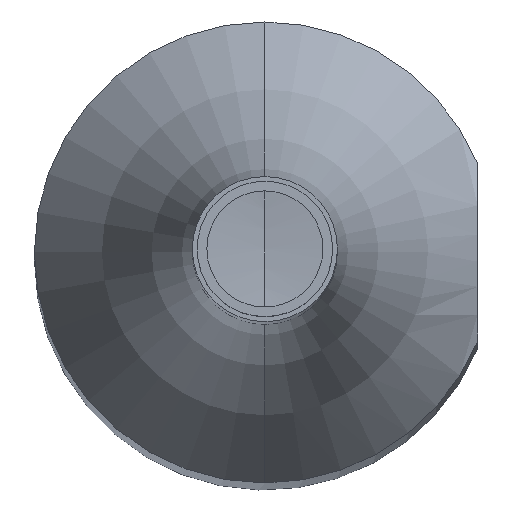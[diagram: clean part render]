
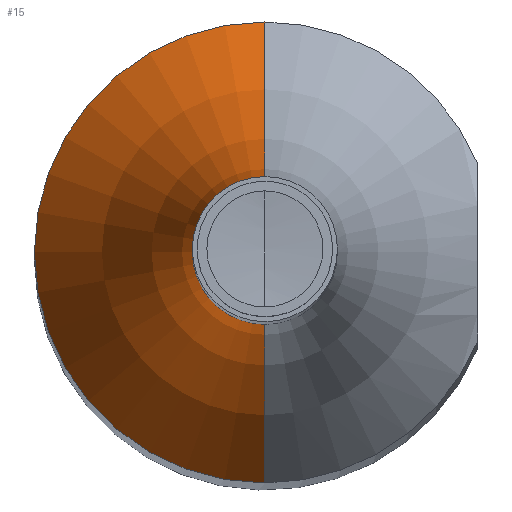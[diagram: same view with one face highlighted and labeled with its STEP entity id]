
A CAD part, top view. The second image highlights one B-rep face of the part: STEP entity #15.
In plain terms, the highlighted toroidal (fillet/blend) face has major radius 15.795 mm and minor radius 14.295 mm.
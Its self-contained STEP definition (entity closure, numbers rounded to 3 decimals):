
#15 = ADVANCED_FACE ( 'NONE', ( #358 ), #239, .F. ) ;
#20 = DIRECTION ( 'NONE',  ( -1., 0., 0. ) ) ;
#23 = CARTESIAN_POINT ( 'NONE',  ( 0., 4.765, -42.333 ) ) ;
#28 = ORIENTED_EDGE ( 'NONE', *, *, #303, .T. ) ;
#33 = ORIENTED_EDGE ( 'NONE', *, *, #198, .T. ) ;
#52 = DIRECTION ( 'NONE',  ( 0., -1., 0. ) ) ;
#79 = VERTEX_POINT ( 'NONE', #489 ) ;
#81 = AXIS2_PLACEMENT_3D ( 'NONE', #361, #449, #125 ) ;
#82 = DIRECTION ( 'NONE',  ( 0., 1., 0. ) ) ;
#85 = CARTESIAN_POINT ( 'NONE',  ( 0., 1.5, -33.24 ) ) ;
#95 = CARTESIAN_POINT ( 'NONE',  ( 0., -15.795, -33.24 ) ) ;
#108 = EDGE_LOOP ( 'NONE', ( #318, #277, #33, #28, #355 ) ) ;
#112 = VERTEX_POINT ( 'NONE', #402 ) ;
#125 = DIRECTION ( 'NONE',  ( 0., 1., 0. ) ) ;
#126 = EDGE_CURVE ( 'NONE', #112, #197, #373, .T. ) ;
#143 = DIRECTION ( 'NONE',  ( 0., 0., 1. ) ) ;
#159 = VERTEX_POINT ( 'NONE', #485 ) ;
#161 = CARTESIAN_POINT ( 'NONE',  ( 0., 0., -33.24 ) ) ;
#197 = VERTEX_POINT ( 'NONE', #23 ) ;
#198 = EDGE_CURVE ( 'NONE', #79, #159, #425, .T. ) ;
#239 = TOROIDAL_SURFACE ( 'NONE', #393, 15.795, 14.295 ) ;
#260 = DIRECTION ( 'NONE',  ( 0., 1., 0. ) ) ;
#277 = ORIENTED_EDGE ( 'NONE', *, *, #285, .T. ) ;
#285 = EDGE_CURVE ( 'NONE', #112, #79, #468, .T. ) ;
#299 = CARTESIAN_POINT ( 'NONE',  ( 0., 0., -33.24 ) ) ;
#303 = EDGE_CURVE ( 'NONE', #159, #481, #497, .T. ) ;
#309 = AXIS2_PLACEMENT_3D ( 'NONE', #456, #20, #143 ) ;
#314 = EDGE_CURVE ( 'NONE', #197, #481, #326, .T. ) ;
#318 = ORIENTED_EDGE ( 'NONE', *, *, #126, .F. ) ;
#326 = CIRCLE ( 'NONE', #309, 14.295 ) ;
#355 = ORIENTED_EDGE ( 'NONE', *, *, #314, .F. ) ;
#358 = FACE_OUTER_BOUND ( 'NONE', #108, .T. ) ;
#361 = CARTESIAN_POINT ( 'NONE',  ( 0., 0., -42.333 ) ) ;
#371 = DIRECTION ( 'NONE',  ( 0., -1., 0. ) ) ;
#373 = CIRCLE ( 'NONE', #81, 4.765 ) ;
#386 = DIRECTION ( 'NONE',  ( 0., 0., -1. ) ) ;
#393 = AXIS2_PLACEMENT_3D ( 'NONE', #161, #386, #82 ) ;
#402 = CARTESIAN_POINT ( 'NONE',  ( 0., -4.765, -42.333 ) ) ;
#416 = DIRECTION ( 'NONE',  ( 1., 0., 0. ) ) ;
#417 = AXIS2_PLACEMENT_3D ( 'NONE', #95, #416, #260 ) ;
#418 = DIRECTION ( 'NONE',  ( 0., 0., -1. ) ) ;
#423 = DIRECTION ( 'NONE',  ( 0., 0., -1. ) ) ;
#425 = CIRCLE ( 'NONE', #470, 1.5 ) ;
#449 = DIRECTION ( 'NONE',  ( 0., 0., -1. ) ) ;
#456 = CARTESIAN_POINT ( 'NONE',  ( 0., 15.795, -33.24 ) ) ;
#468 = CIRCLE ( 'NONE', #417, 14.295 ) ;
#470 = AXIS2_PLACEMENT_3D ( 'NONE', #299, #418, #371 ) ;
#481 = VERTEX_POINT ( 'NONE', #85 ) ;
#485 = CARTESIAN_POINT ( 'NONE',  ( -1.5, 0., -33.24 ) ) ;
#488 = AXIS2_PLACEMENT_3D ( 'NONE', #503, #423, #52 ) ;
#489 = CARTESIAN_POINT ( 'NONE',  ( 0., -1.5, -33.24 ) ) ;
#497 = CIRCLE ( 'NONE', #488, 1.5 ) ;
#503 = CARTESIAN_POINT ( 'NONE',  ( 0., 0., -33.24 ) ) ;
